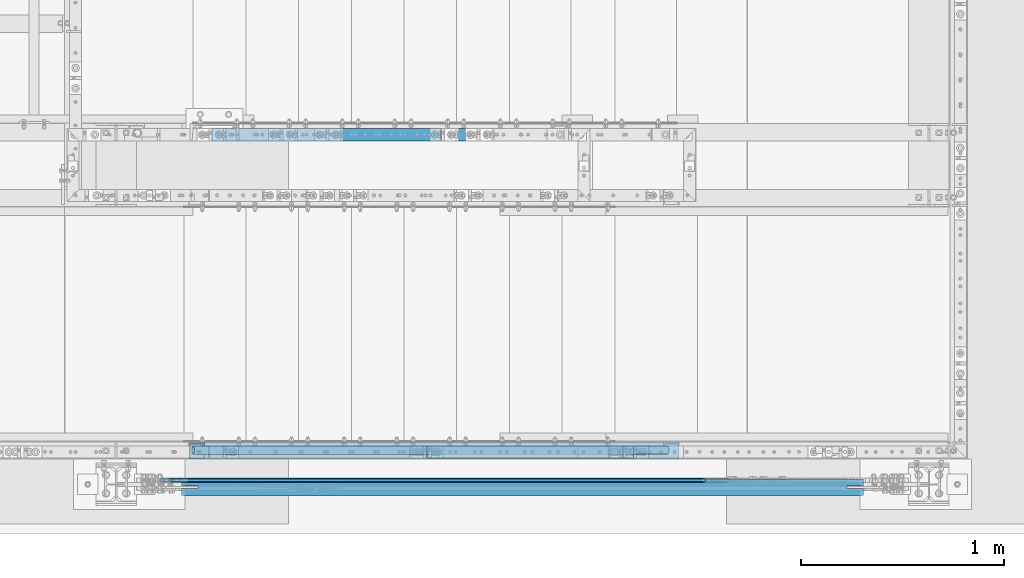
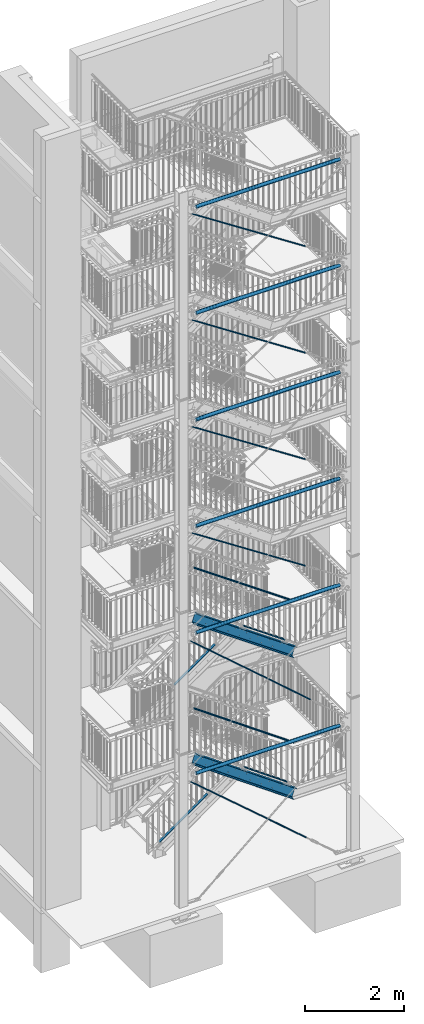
# One storey, part 122 of 831: 14 members, 6 beams, 56 openings.
"""IFC2X3 building model written with IfcOpenShell, lengths in millimetres."""

from ifc_helpers import new_model, entity, si_unit, converted_unit, frame, frame_2d, origin, origin_with_axes, origin_2d, origin_2d_with_axis, place, context, project, spatial, polyline, rectangle, circle, hollow_circle, u_section, outline, extrude, clip, halfspace, material, element, save


model = new_model("IFC2X3")

# Units and contexts
model_context = context("Model", 3, precision=1e-09, world=origin_with_axes())
ifc_project = project(units=[si_unit("LENGTHUNIT", "METRE", prefix="MILLI"), si_unit("AREAUNIT", "SQUARE_METRE"), si_unit("VOLUMEUNIT", "CUBIC_METRE"), converted_unit("PLANEANGLEUNIT", "DEGREE", entity("IfcPlaneAngleMeasure", 0.01745329), si_unit("PLANEANGLEUNIT", "RADIAN"), dimensions=[0, 0, 0, 0, 0, 0, 0])], contexts=[model_context])

# Site, building, storey
site_placement = place(None, origin_with_axes())
site = spatial("IfcSite", under=ifc_project, at=site_placement, Name="Site", CompositionType="ELEMENT")
building_placement = place(site_placement, origin_with_axes())
building = spatial("IfcBuilding", under=site, at=building_placement, Name="Struktur 1", CompositionType="ELEMENT")
storey_placement = place(building_placement, origin_with_axes())
storey = spatial("IfcBuildingStorey", under=building, at=storey_placement, Name="Default Storey", CompositionType="ELEMENT", Elevation=0.0)

# Members
ifc_material = material(Name="S235JR")
member_1_placement = place(None, frame((5332.114193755, 6091.736971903, 702.815552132), z_axis=(-0.814635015, 0.0, -0.579973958), x_axis=(0.579973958, 0.0, -0.814635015)))
element("IfcMember", 1, at=member_1_placement, inside=storey, material=ifc_material, Name="Railing_Kneerail_Stair#1", ObjectType="Railing_Kneerail_Stair#1", context=model_context, shape_type="SweptSolid", body=[
    extrude(rectangle(XDim=10.0, YDim=60.0, at=origin_2d()), origin(), (0.0, 0.0, -1.0), 1383.073435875),
])
member_2_placement = place(None, frame((5683.755877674, 6091.736971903, 4463.532581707), z_axis=(-0.818063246, 0.0, -0.575128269), x_axis=(0.575128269, 0.0, -0.818063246)))
element("IfcMember", 2, at=member_2_placement, inside=storey, material=ifc_material, Name="Railing_Kneerail_Stair#3", ObjectType="Railing_Kneerail_Stair#3", context=model_context, shape_type="SweptSolid", body=[
    extrude(rectangle(XDim=10.0, YDim=60.0, at=origin_2d()), origin(), (0.0, 0.0, -1.0), 1162.398574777),
])

# Beam, openings
beam_1_placement = place(None, frame((5179.963402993, 4351.736971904, 14878.999996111), z_axis=(-1.0, 0.0, 0.0), x_axis=(0.0, 0.0, -1.0)))
beam_1 = element("IfcBeam", 3, at=beam_1_placement, inside=storey, material=ifc_material, Name="Girder", ObjectType="Girder", context=model_context, shape_type="SweptSolid", body=[
    extrude(hollow_circle(Radius=41.25, WallThickness=3.2, at=origin_2d()), origin(), (0.0, 0.0, -1.0), 3363.5),
])
opening_1_placement = place(beam_1_placement, frame((141.35, 0.0, -3363.5), z_axis=(-1.0, 0.0, 0.0), x_axis=(0.0, 0.0, -1.0)))
element("IfcOpeningElement", 4, at=opening_1_placement, cuts=beam_1, ObjectType="Opening", context=model_context, shape_type="SweptSolid", body=[
    extrude(outline(polyline([(-81.001, -5.501), (26.790041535, -5.501), (26.790041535, 5.501), (-81.001, 5.501), (-81.001, -5.501)])), origin(), (0.0, 0.0, 1.0), 282.7),
])
opening_2_placement = place(beam_1_placement, frame((141.35, 5.501, -81.002000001), z_axis=(1.0, 0.0, 0.0), x_axis=(0.0, 0.0, 1.0)))
element("IfcOpeningElement", 5, at=opening_2_placement, cuts=beam_1, ObjectType="Opening", context=model_context, shape_type="SweptSolid", body=[
    extrude(outline(polyline([(0.0, 0.0), (114.972485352, 0.0), (114.972485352, 11.002), (0.0, 11.002), (0.0, 0.0)])), origin(), (0.0, 0.0, -1.0), 282.7),
])

beam_2_placement = place(None, frame((5179.963402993, 4351.736971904, 17498.999996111), z_axis=(-1.0, 0.0, 0.0), x_axis=(0.0, 0.0, -1.0)))
beam_2 = element("IfcBeam", 6, at=beam_2_placement, inside=storey, material=ifc_material, Name="Girder", ObjectType="Girder", context=model_context, shape_type="SweptSolid", body=[
    extrude(hollow_circle(Radius=41.25, WallThickness=3.2, at=origin_2d()), origin(), (0.0, 0.0, -1.0), 3363.5),
])
opening_3_placement = place(beam_2_placement, frame((141.35, 0.0, -3363.5), z_axis=(-1.0, 0.0, 0.0), x_axis=(0.0, 0.0, -1.0)))
element("IfcOpeningElement", 7, at=opening_3_placement, cuts=beam_2, ObjectType="Opening", context=model_context, shape_type="SweptSolid", body=[
    extrude(outline(polyline([(-81.001, -5.501), (26.790041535, -5.501), (26.790041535, 5.501), (-81.001, 5.501), (-81.001, -5.501)])), origin(), (0.0, 0.0, 1.0), 282.7),
])
opening_4_placement = place(beam_2_placement, frame((141.35, 5.501, -81.002000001), z_axis=(1.0, 0.0, 0.0), x_axis=(0.0, 0.0, 1.0)))
element("IfcOpeningElement", 8, at=opening_4_placement, cuts=beam_2, ObjectType="Opening", context=model_context, shape_type="SweptSolid", body=[
    extrude(outline(polyline([(0.0, 0.0), (114.972485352, 0.0), (114.972485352, 11.002), (0.0, 11.002), (0.0, 0.0)])), origin(), (0.0, 0.0, -1.0), 282.7),
])

# Members
member_3_placement = place(None, frame((7602.354363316, 4535.536971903, 3302.79772078), z_axis=(0.814635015, 0.0, -0.579973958), x_axis=(-0.579973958, 0.0, -0.814635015)))
element("IfcMember", 9, at=member_3_placement, inside=storey, material=ifc_material, Name="Gel?nder", ObjectType="Gel?nder", context=model_context, shape_type="Clipping", body=[
    clip(clip(extrude(hollow_circle(Radius=21.2, WallThickness=3.2, at=origin_2d()), origin(), (0.0, 0.0, -1.0), 2935.40281845), halfspace(frame((6043.370805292, -4535.536971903, -972.409756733), z_axis=(-0.304437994, 0.0, 0.952532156), x_axis=(0.0, 1.0, 0.0)), True)), halfspace(frame((5210.397729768, -4535.536971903, 1633.814350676), z_axis=(0.304437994, 0.0, -0.952532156), x_axis=(0.0, -1.0, 0.0)), True)),
])
member_4_placement = place(None, frame((7406.697121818, 4526.736971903, 2421.8849209), z_axis=(0.814635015, 0.0, -0.579973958), x_axis=(-0.579973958, 0.0, -0.814635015)))
element("IfcMember", 10, at=member_4_placement, inside=storey, material=ifc_material, Name="Railing_Kneerail_Stair#13", ObjectType="Railing_Kneerail_Stair#13", context=model_context, shape_type="SweptSolid", body=[
    extrude(rectangle(XDim=10.0, YDim=60.0, at=origin_2d()), origin(), (0.0, 0.0, -1.0), 1218.06374537),
])
member_5_placement = place(None, frame((7602.437980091, 4535.536971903, 6796.809421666), z_axis=(0.818063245, 0.0, -0.57512827), x_axis=(-0.57512827, 0.0, -0.818063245)))
element("IfcMember", 11, at=member_5_placement, inside=storey, material=ifc_material, Name="Gel?nder", ObjectType="Gel?nder", context=model_context, shape_type="Clipping", body=[
    clip(clip(extrude(hollow_circle(Radius=21.2, WallThickness=3.2, at=origin_2d()), origin(), (0.0, 0.0, -1.0), 2923.30595161), halfspace(frame((9196.298185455, -4535.536971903, 17.308609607), z_axis=(-0.301609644, 0.0, 0.953431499), x_axis=(0.0, 1.0, 0.0)), True)), halfspace(frame((8373.746157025, -4535.536971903, 2617.513971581), z_axis=(0.301609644, 0.0, -0.953431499), x_axis=(0.0, -1.0, 0.0)), True)),
])
member_6_placement = place(None, frame((7354.416475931, 4526.736971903, 5950.633535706), z_axis=(0.818063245, 0.0, -0.57512827), x_axis=(-0.57512827, 0.0, -0.818063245)))
element("IfcMember", 12, at=member_6_placement, inside=storey, material=ifc_material, Name="Railing_Kneerail_Stair#15", ObjectType="Railing_Kneerail_Stair#15", context=model_context, shape_type="SweptSolid", body=[
    extrude(rectangle(XDim=10.0, YDim=60.0, at=origin_2d()), origin(), (0.0, 0.0, -1.0), 1178.697204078),
])

# Member, openings
member_7_placement = place(None, frame((7774.802623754, 4554.436971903, 1932.719101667), z_axis=(-0.814635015, 0.0, 0.579973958), x_axis=(0.0, -1.0, 0.0)))
member_7 = element("IfcMember", 13, at=member_7_placement, inside=storey, material=ifc_material, Name="Stringer#1", ObjectType="Stringer#1", context=model_context, shape_type="Clipping", body=[
    clip(clip(extrude(u_section(Depth=240.0, FlangeWidth=85.0, WebThickness=9.5, FlangeThickness=13.0, FilletRadius=13.0, EdgeRadius=6.5, FlangeSlope=4.574, at=frame_2d((20.2, 0.0))), origin(), (0.0, 0.0, 1.0), 3391.707504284), halfspace(frame((4554.436971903, -4072.348471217, -1080.284148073), z_axis=(0.0, -0.304437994, 0.952532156), x_axis=(1.0, 0.0, 0.0)), True)), halfspace(frame((4554.436971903, -4905.321546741, 1525.939959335), z_axis=(0.0, 0.304437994, -0.952532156), x_axis=(-1.0, 0.0, 0.0)), True)),
])
opening_5_placement = place(member_7_placement, frame((-22.8, 54.89598563, 2240.178028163), z_axis=(1.0, 0.0, 0.0), x_axis=(0.0, -0.579973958, 0.814635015)))
element("IfcOpeningElement", 14, at=opening_5_placement, cuts=member_7, ObjectType="Opening", context=model_context, shape_type="SweptSolid", body=[
    extrude(circle(Radius=7.001, at=origin_2d_with_axis()), origin(), (0.0, 0.0, 1.0), 10.5),
])
opening_6_placement = place(member_7_placement, frame((-22.8, 54.89598563, 963.532683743), z_axis=(1.0, 0.0, 0.0), x_axis=(0.0, -0.579973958, 0.814635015)))
element("IfcOpeningElement", 15, at=opening_6_placement, cuts=member_7, ObjectType="Opening", context=model_context, shape_type="SweptSolid", body=[
    extrude(circle(Radius=7.001, at=origin_2d_with_axis()), origin(), (0.0, 0.0, 1.0), 10.5),
])
opening_7_placement = place(member_7_placement, frame((-22.8, -49.49932673, 2067.650994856), z_axis=(1.0, 0.0, 0.0), x_axis=(0.0, -0.579973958, 0.814635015)))
element("IfcOpeningElement", 16, at=opening_7_placement, cuts=member_7, ObjectType="Opening", context=model_context, shape_type="SweptSolid", body=[
    extrude(circle(Radius=7.001, at=origin_2d_with_axis()), origin(), (0.0, 0.0, 1.0), 10.5),
])
opening_8_placement = place(member_7_placement, frame((-22.8, 54.89598563, 2559.339364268), z_axis=(1.0, 0.0, 0.0), x_axis=(0.0, -0.579973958, 0.814635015)))
element("IfcOpeningElement", 17, at=opening_8_placement, cuts=member_7, ObjectType="Opening", context=model_context, shape_type="SweptSolid", body=[
    extrude(circle(Radius=7.001, at=origin_2d_with_axis()), origin(), (0.0, 0.0, 1.0), 10.5),
])
opening_9_placement = place(member_7_placement, frame((-22.8, -49.49932673, 3025.135003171), z_axis=(1.0, 0.0, 0.0), x_axis=(0.0, -0.579973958, 0.814635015)))
element("IfcOpeningElement", 18, at=opening_9_placement, cuts=member_7, ObjectType="Opening", context=model_context, shape_type="SweptSolid", body=[
    extrude(circle(Radius=7.001, at=origin_2d_with_axis()), origin(), (0.0, 0.0, 1.0), 10.5),
])
opening_10_placement = place(member_7_placement, frame((-22.8, -49.49932673, 1110.166986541), z_axis=(1.0, 0.0, 0.0), x_axis=(0.0, -0.579973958, 0.814635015)))
element("IfcOpeningElement", 19, at=opening_10_placement, cuts=member_7, ObjectType="Opening", context=model_context, shape_type="SweptSolid", body=[
    extrude(circle(Radius=7.001, at=origin_2d_with_axis()), origin(), (0.0, 0.0, 1.0), 10.5),
])
opening_11_placement = place(member_7_placement, frame((-22.8, -49.49932673, 791.005650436), z_axis=(1.0, 0.0, 0.0), x_axis=(0.0, -0.579973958, 0.814635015)))
element("IfcOpeningElement", 20, at=opening_11_placement, cuts=member_7, ObjectType="Opening", context=model_context, shape_type="SweptSolid", body=[
    extrude(circle(Radius=7.001, at=origin_2d_with_axis()), origin(), (0.0, 0.0, 1.0), 10.5),
])
opening_12_placement = place(member_7_placement, frame((-22.8, -49.49932673, 1429.328322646), z_axis=(1.0, 0.0, 0.0), x_axis=(0.0, -0.579973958, 0.814635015)))
element("IfcOpeningElement", 21, at=opening_12_placement, cuts=member_7, ObjectType="Opening", context=model_context, shape_type="SweptSolid", body=[
    extrude(circle(Radius=7.001, at=origin_2d_with_axis()), origin(), (0.0, 0.0, 1.0), 10.5),
])
opening_13_placement = place(member_7_placement, frame((-22.8, 54.89598563, 1601.855355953), z_axis=(1.0, 0.0, 0.0), x_axis=(0.0, -0.579973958, 0.814635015)))
element("IfcOpeningElement", 22, at=opening_13_placement, cuts=member_7, ObjectType="Opening", context=model_context, shape_type="SweptSolid", body=[
    extrude(circle(Radius=7.001, at=origin_2d_with_axis()), origin(), (0.0, 0.0, 1.0), 10.5),
])
opening_14_placement = place(member_7_placement, frame((-22.8, -49.49932673, 2705.973667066), z_axis=(1.0, 0.0, 0.0), x_axis=(0.0, -0.579973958, 0.814635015)))
element("IfcOpeningElement", 23, at=opening_14_placement, cuts=member_7, ObjectType="Opening", context=model_context, shape_type="SweptSolid", body=[
    extrude(circle(Radius=7.001, at=origin_2d_with_axis()), origin(), (0.0, 0.0, 1.0), 10.5),
])
opening_15_placement = place(member_7_placement, frame((-22.8, -49.49932673, 2386.812330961), z_axis=(1.0, 0.0, 0.0), x_axis=(0.0, -0.579973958, 0.814635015)))
element("IfcOpeningElement", 24, at=opening_15_placement, cuts=member_7, ObjectType="Opening", context=model_context, shape_type="SweptSolid", body=[
    extrude(circle(Radius=7.001, at=origin_2d_with_axis()), origin(), (0.0, 0.0, 1.0), 10.5),
])
opening_16_placement = place(member_7_placement, frame((-22.8, 54.89598563, 644.371347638), z_axis=(1.0, 0.0, 0.0), x_axis=(0.0, -0.579973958, 0.814635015)))
element("IfcOpeningElement", 25, at=opening_16_placement, cuts=member_7, ObjectType="Opening", context=model_context, shape_type="SweptSolid", body=[
    extrude(circle(Radius=7.001, at=origin_2d_with_axis()), origin(), (0.0, 0.0, 1.0), 10.5),
])
opening_17_placement = place(member_7_placement, frame((-22.8, 54.89598563, 1921.016692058), z_axis=(1.0, 0.0, 0.0), x_axis=(0.0, -0.579973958, 0.814635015)))
element("IfcOpeningElement", 26, at=opening_17_placement, cuts=member_7, ObjectType="Opening", context=model_context, shape_type="SweptSolid", body=[
    extrude(circle(Radius=7.001, at=origin_2d_with_axis()), origin(), (0.0, 0.0, 1.0), 10.5),
])
opening_18_placement = place(member_7_placement, frame((-22.8, 54.89598563, 2878.500700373), z_axis=(1.0, 0.0, 0.0), x_axis=(0.0, -0.579973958, 0.814635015)))
element("IfcOpeningElement", 27, at=opening_18_placement, cuts=member_7, ObjectType="Opening", context=model_context, shape_type="SweptSolid", body=[
    extrude(circle(Radius=7.001, at=origin_2d_with_axis()), origin(), (0.0, 0.0, 1.0), 10.5),
])
opening_19_placement = place(member_7_placement, frame((-22.8, 54.89598563, 1282.694019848), z_axis=(1.0, 0.0, 0.0), x_axis=(0.0, -0.579973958, 0.814635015)))
element("IfcOpeningElement", 28, at=opening_19_placement, cuts=member_7, ObjectType="Opening", context=model_context, shape_type="SweptSolid", body=[
    extrude(circle(Radius=7.001, at=origin_2d_with_axis()), origin(), (0.0, 0.0, 1.0), 10.5),
])
opening_20_placement = place(member_7_placement, frame((-22.8, -49.49932673, 1748.489658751), z_axis=(1.0, 0.0, 0.0), x_axis=(0.0, -0.579973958, 0.814635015)))
element("IfcOpeningElement", 29, at=opening_20_placement, cuts=member_7, ObjectType="Opening", context=model_context, shape_type="SweptSolid", body=[
    extrude(circle(Radius=7.001, at=origin_2d_with_axis()), origin(), (0.0, 0.0, 1.0), 10.5),
])
opening_21_placement = place(member_7_placement, frame((27.7, 120.5, 581.652992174), z_axis=(0.0, 1.0, 0.0), x_axis=(-1.0, 0.0, 0.0)))
element("IfcOpeningElement", 30, at=opening_21_placement, cuts=member_7, ObjectType="Opening", context=model_context, shape_type="SweptSolid", body=[
    extrude(circle(Radius=7.001, at=frame_2d((0.0, 7.001), x_axis=(1.0, 0.0))), origin(), (0.0, 0.0, -1.0), 14.0),
])
opening_22_placement = place(member_7_placement, frame((27.7, 120.5, 481.652992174), z_axis=(0.0, 1.0, 0.0), x_axis=(-1.0, 0.0, 0.0)))
element("IfcOpeningElement", 31, at=opening_22_placement, cuts=member_7, ObjectType="Opening", context=model_context, shape_type="SweptSolid", body=[
    extrude(circle(Radius=7.001, at=frame_2d((0.0, 7.001), x_axis=(1.0, 0.0))), origin(), (0.0, 0.0, -1.0), 14.0),
])
opening_23_placement = place(member_7_placement, frame((27.7, 120.5, 1825.24932475), z_axis=(0.0, 1.0, 0.0), x_axis=(-1.0, 0.0, 0.0)))
element("IfcOpeningElement", 32, at=opening_23_placement, cuts=member_7, ObjectType="Opening", context=model_context, shape_type="SweptSolid", body=[
    extrude(circle(Radius=7.001, at=frame_2d((0.0, 7.001), x_axis=(1.0, 0.0))), origin(), (0.0, 0.0, -1.0), 14.0),
])
opening_24_placement = place(member_7_placement, frame((27.7, 120.5, 1725.24932475), z_axis=(0.0, 1.0, 0.0), x_axis=(-1.0, 0.0, 0.0)))
element("IfcOpeningElement", 33, at=opening_24_placement, cuts=member_7, ObjectType="Opening", context=model_context, shape_type="SweptSolid", body=[
    extrude(circle(Radius=7.001, at=frame_2d((0.0, 7.001), x_axis=(1.0, 0.0))), origin(), (0.0, 0.0, -1.0), 14.0),
])
opening_25_placement = place(member_7_placement, frame((27.7, 120.5, 3068.845657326), z_axis=(0.0, 1.0, 0.0), x_axis=(-1.0, 0.0, 0.0)))
element("IfcOpeningElement", 34, at=opening_25_placement, cuts=member_7, ObjectType="Opening", context=model_context, shape_type="SweptSolid", body=[
    extrude(circle(Radius=7.001, at=frame_2d((0.0, 7.001), x_axis=(1.0, 0.0))), origin(), (0.0, 0.0, -1.0), 14.0),
])
opening_26_placement = place(member_7_placement, frame((27.7, 120.5, 2968.845657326), z_axis=(0.0, 1.0, 0.0), x_axis=(-1.0, 0.0, 0.0)))
element("IfcOpeningElement", 35, at=opening_26_placement, cuts=member_7, ObjectType="Opening", context=model_context, shape_type="SweptSolid", body=[
    extrude(circle(Radius=7.001, at=frame_2d((0.0, 7.001), x_axis=(1.0, 0.0))), origin(), (0.0, 0.0, -1.0), 14.0),
])

member_8_placement = place(None, frame((7776.785634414, 4554.436971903, 5427.548742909), z_axis=(-0.818063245, 0.0, 0.57512827), x_axis=(0.0, -1.0, 0.0)))
member_8 = element("IfcMember", 36, at=member_8_placement, inside=storey, material=ifc_material, Name="Stringer#1", ObjectType="Stringer#1", context=model_context, shape_type="Clipping", body=[
    clip(clip(extrude(u_section(Depth=240.0, FlangeWidth=85.0, WebThickness=9.5, FlangeThickness=13.0, FilletRadius=13.0, EdgeRadius=6.5, FlangeSlope=4.574, at=frame_2d((20.2, 0.0))), origin(), (0.0, 0.0, 1.0), 3379.180219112), halfspace(frame((4554.436971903, -7233.811372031, -2066.929465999), z_axis=(0.0, -0.301609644, 0.953431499), x_axis=(1.0, 0.0, 0.0)), True)), halfspace(frame((4554.436971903, -8056.363400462, 533.275895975), z_axis=(0.0, 0.301609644, -0.953431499), x_axis=(-1.0, 0.0, 0.0)), True)),
])
opening_27_placement = place(member_8_placement, frame((-22.8, 54.877032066, 1597.228051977), z_axis=(1.0, 0.0, 0.0), x_axis=(0.0, -0.57512827, 0.818063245)))
element("IfcOpeningElement", 37, at=opening_27_placement, cuts=member_8, ObjectType="Opening", context=model_context, shape_type="SweptSolid", body=[
    extrude(circle(Radius=7.001, at=origin_2d_with_axis()), origin(), (0.0, 0.0, 1.0), 10.5),
])
opening_28_placement = place(member_8_placement, frame((-22.8, -48.646056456, 1426.655598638), z_axis=(1.0, 0.0, 0.0), x_axis=(0.0, -0.57512827, 0.818063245)))
element("IfcOpeningElement", 38, at=opening_28_placement, cuts=member_8, ObjectType="Opening", context=model_context, shape_type="SweptSolid", body=[
    extrude(circle(Radius=7.001, at=origin_2d_with_axis()), origin(), (0.0, 0.0, 1.0), 10.5),
])
opening_29_placement = place(member_8_placement, frame((-22.8, -48.646056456, 3015.774786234), z_axis=(1.0, 0.0, 0.0), x_axis=(0.0, -0.57512827, 0.818063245)))
element("IfcOpeningElement", 39, at=opening_29_placement, cuts=member_8, ObjectType="Opening", context=model_context, shape_type="SweptSolid", body=[
    extrude(circle(Radius=7.001, at=origin_2d_with_axis()), origin(), (0.0, 0.0, 1.0), 10.5),
])
opening_30_placement = place(member_8_placement, frame((-22.8, 54.877032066, 2868.523402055), z_axis=(1.0, 0.0, 0.0), x_axis=(0.0, -0.57512827, 0.818063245)))
element("IfcOpeningElement", 40, at=opening_30_placement, cuts=member_8, ObjectType="Opening", context=model_context, shape_type="SweptSolid", body=[
    extrude(circle(Radius=7.001, at=origin_2d_with_axis()), origin(), (0.0, 0.0, 1.0), 10.5),
])
opening_31_placement = place(member_8_placement, frame((-22.8, -48.646056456, 2062.303273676), z_axis=(1.0, 0.0, 0.0), x_axis=(0.0, -0.57512827, 0.818063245)))
element("IfcOpeningElement", 41, at=opening_31_placement, cuts=member_8, ObjectType="Opening", context=model_context, shape_type="SweptSolid", body=[
    extrude(circle(Radius=7.001, at=origin_2d_with_axis()), origin(), (0.0, 0.0, 1.0), 10.5),
])
opening_32_placement = place(member_8_placement, frame((-22.8, 54.877032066, 961.580376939), z_axis=(1.0, 0.0, 0.0), x_axis=(0.0, -0.57512827, 0.818063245)))
element("IfcOpeningElement", 42, at=opening_32_placement, cuts=member_8, ObjectType="Opening", context=model_context, shape_type="SweptSolid", body=[
    extrude(circle(Radius=7.001, at=origin_2d_with_axis()), origin(), (0.0, 0.0, 1.0), 10.5),
])
opening_33_placement = place(member_8_placement, frame((-22.8, -48.646056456, 1744.479436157), z_axis=(1.0, 0.0, 0.0), x_axis=(0.0, -0.57512827, 0.818063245)))
element("IfcOpeningElement", 43, at=opening_33_placement, cuts=member_8, ObjectType="Opening", context=model_context, shape_type="SweptSolid", body=[
    extrude(circle(Radius=7.001, at=origin_2d_with_axis()), origin(), (0.0, 0.0, 1.0), 10.5),
])
opening_34_placement = place(member_8_placement, frame((-22.8, 54.877032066, 2550.699564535), z_axis=(1.0, 0.0, 0.0), x_axis=(0.0, -0.57512827, 0.818063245)))
element("IfcOpeningElement", 44, at=opening_34_placement, cuts=member_8, ObjectType="Opening", context=model_context, shape_type="SweptSolid", body=[
    extrude(circle(Radius=7.001, at=origin_2d_with_axis()), origin(), (0.0, 0.0, 1.0), 10.5),
])
opening_35_placement = place(member_8_placement, frame((-22.8, -48.646056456, 791.007923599), z_axis=(1.0, 0.0, 0.0), x_axis=(0.0, -0.57512827, 0.818063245)))
element("IfcOpeningElement", 45, at=opening_35_placement, cuts=member_8, ObjectType="Opening", context=model_context, shape_type="SweptSolid", body=[
    extrude(circle(Radius=7.001, at=origin_2d_with_axis()), origin(), (0.0, 0.0, 1.0), 10.5),
])
opening_36_placement = place(member_8_placement, frame((-22.8, 54.877032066, 1915.051889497), z_axis=(1.0, 0.0, 0.0), x_axis=(0.0, -0.57512827, 0.818063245)))
element("IfcOpeningElement", 46, at=opening_36_placement, cuts=member_8, ObjectType="Opening", context=model_context, shape_type="SweptSolid", body=[
    extrude(circle(Radius=7.001, at=origin_2d_with_axis()), origin(), (0.0, 0.0, 1.0), 10.5),
])
opening_37_placement = place(member_8_placement, frame((-22.8, -48.646056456, 1108.831761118), z_axis=(1.0, 0.0, 0.0), x_axis=(0.0, -0.57512827, 0.818063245)))
element("IfcOpeningElement", 47, at=opening_37_placement, cuts=member_8, ObjectType="Opening", context=model_context, shape_type="SweptSolid", body=[
    extrude(circle(Radius=7.001, at=origin_2d_with_axis()), origin(), (0.0, 0.0, 1.0), 10.5),
])
opening_38_placement = place(member_8_placement, frame((-22.8, 54.877032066, 643.756539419), z_axis=(1.0, 0.0, 0.0), x_axis=(0.0, -0.57512827, 0.818063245)))
element("IfcOpeningElement", 48, at=opening_38_placement, cuts=member_8, ObjectType="Opening", context=model_context, shape_type="SweptSolid", body=[
    extrude(circle(Radius=7.001, at=origin_2d_with_axis()), origin(), (0.0, 0.0, 1.0), 10.5),
])
opening_39_placement = place(member_8_placement, frame((-22.8, 54.877032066, 1279.404214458), z_axis=(1.0, 0.0, 0.0), x_axis=(0.0, -0.57512827, 0.818063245)))
element("IfcOpeningElement", 49, at=opening_39_placement, cuts=member_8, ObjectType="Opening", context=model_context, shape_type="SweptSolid", body=[
    extrude(circle(Radius=7.001, at=origin_2d_with_axis()), origin(), (0.0, 0.0, 1.0), 10.5),
])
opening_40_placement = place(member_8_placement, frame((-22.8, -48.646056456, 2697.950948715), z_axis=(1.0, 0.0, 0.0), x_axis=(0.0, -0.57512827, 0.818063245)))
element("IfcOpeningElement", 50, at=opening_40_placement, cuts=member_8, ObjectType="Opening", context=model_context, shape_type="SweptSolid", body=[
    extrude(circle(Radius=7.001, at=origin_2d_with_axis()), origin(), (0.0, 0.0, 1.0), 10.5),
])
opening_41_placement = place(member_8_placement, frame((-22.8, 54.877032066, 2232.875727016), z_axis=(1.0, 0.0, 0.0), x_axis=(0.0, -0.57512827, 0.818063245)))
element("IfcOpeningElement", 51, at=opening_41_placement, cuts=member_8, ObjectType="Opening", context=model_context, shape_type="SweptSolid", body=[
    extrude(circle(Radius=7.001, at=origin_2d_with_axis()), origin(), (0.0, 0.0, 1.0), 10.5),
])
opening_42_placement = place(member_8_placement, frame((-22.8, -48.646056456, 2380.127111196), z_axis=(1.0, 0.0, 0.0), x_axis=(0.0, -0.57512827, 0.818063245)))
element("IfcOpeningElement", 52, at=opening_42_placement, cuts=member_8, ObjectType="Opening", context=model_context, shape_type="SweptSolid", body=[
    extrude(circle(Radius=7.001, at=origin_2d_with_axis()), origin(), (0.0, 0.0, 1.0), 10.5),
])
opening_43_placement = place(member_8_placement, frame((27.7, 120.5, 645.130394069), z_axis=(0.0, 1.0, 0.0), x_axis=(-1.0, 0.0, 0.0)))
element("IfcOpeningElement", 53, at=opening_43_placement, cuts=member_8, ObjectType="Opening", context=model_context, shape_type="SweptSolid", body=[
    extrude(circle(Radius=7.001, at=frame_2d((0.0, 7.001), x_axis=(1.0, 0.0))), origin(), (0.0, 0.0, -1.0), 14.0),
])
opening_44_placement = place(member_8_placement, frame((27.7, 120.5, 545.130394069), z_axis=(0.0, 1.0, 0.0), x_axis=(-1.0, 0.0, 0.0)))
element("IfcOpeningElement", 54, at=opening_44_placement, cuts=member_8, ObjectType="Opening", context=model_context, shape_type="SweptSolid", body=[
    extrude(circle(Radius=7.001, at=frame_2d((0.0, 7.001), x_axis=(1.0, 0.0))), origin(), (0.0, 0.0, -1.0), 14.0),
])
opening_45_placement = place(member_8_placement, frame((27.7, 120.5, 1849.193953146), z_axis=(0.0, 1.0, 0.0), x_axis=(-1.0, 0.0, 0.0)))
element("IfcOpeningElement", 55, at=opening_45_placement, cuts=member_8, ObjectType="Opening", context=model_context, shape_type="SweptSolid", body=[
    extrude(circle(Radius=7.001, at=frame_2d((0.0, 7.001), x_axis=(1.0, 0.0))), origin(), (0.0, 0.0, -1.0), 14.0),
])
opening_46_placement = place(member_8_placement, frame((27.7, 120.5, 1749.193953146), z_axis=(0.0, 1.0, 0.0), x_axis=(-1.0, 0.0, 0.0)))
element("IfcOpeningElement", 56, at=opening_46_placement, cuts=member_8, ObjectType="Opening", context=model_context, shape_type="SweptSolid", body=[
    extrude(circle(Radius=7.001, at=frame_2d((0.0, 7.001), x_axis=(1.0, 0.0))), origin(), (0.0, 0.0, -1.0), 14.0),
])
opening_47_placement = place(member_8_placement, frame((27.7, 120.5, 3053.257512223), z_axis=(0.0, 1.0, 0.0), x_axis=(-1.0, 0.0, 0.0)))
element("IfcOpeningElement", 57, at=opening_47_placement, cuts=member_8, ObjectType="Opening", context=model_context, shape_type="SweptSolid", body=[
    extrude(circle(Radius=7.001, at=frame_2d((0.0, 7.001), x_axis=(1.0, 0.0))), origin(), (0.0, 0.0, -1.0), 14.0),
])
opening_48_placement = place(member_8_placement, frame((27.7, 120.5, 2953.257512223), z_axis=(0.0, 1.0, 0.0), x_axis=(-1.0, 0.0, 0.0)))
element("IfcOpeningElement", 58, at=opening_48_placement, cuts=member_8, ObjectType="Opening", context=model_context, shape_type="SweptSolid", body=[
    extrude(circle(Radius=7.001, at=frame_2d((0.0, 7.001), x_axis=(1.0, 0.0))), origin(), (0.0, 0.0, -1.0), 14.0),
])

# Members
member_9_placement = place(None, frame((5085.030637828, 4386.736971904, 3315.453588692), z_axis=(0.757867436, 0.0, -0.652408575), x_axis=(0.652408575, 0.0, 0.757867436)))
element("IfcMember", 59, at=member_9_placement, inside=storey, material=ifc_material, Name="-", ObjectType="-", context=model_context, shape_type="SweptSolid", body=[
    extrude(circle(Radius=11.0, at=origin_2d()), origin(), (0.0, 0.0, 1.0), 3558.71454228),
])
member_10_placement = place(None, frame((5083.107423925, 4386.736971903, 6788.923578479), z_axis=(0.755906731, 0.0, -0.654679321), x_axis=(0.654679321, 0.0, 0.755906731)))
element("IfcMember", 60, at=member_10_placement, inside=storey, material=ifc_material, Name="-", ObjectType="-", context=model_context, shape_type="SweptSolid", body=[
    extrude(circle(Radius=11.0, at=origin_2d()), origin(), (0.0, 0.0, 1.0), 3695.890496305),
])
member_11_placement = place(None, frame((5121.759351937, 4386.736971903, 9443.034675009), z_axis=(0.83600607, 0.0, -0.548720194), x_axis=(0.548720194, 0.0, 0.83600607)))
element("IfcMember", 61, at=member_11_placement, inside=storey, material=ifc_material, Name="-", ObjectType="-", context=model_context, shape_type="SweptSolid", body=[
    extrude(circle(Radius=11.0, at=origin_2d()), origin(), (0.0, 0.0, 1.0), 3152.49296177),
])
member_12_placement = place(None, frame((5121.91149273, 4386.736971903, 12070.267324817), z_axis=(0.836491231, 0.0, -0.547980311), x_axis=(0.547980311, 0.0, 0.836491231)))
element("IfcMember", 62, at=member_12_placement, inside=storey, material=ifc_material, Name="-", ObjectType="-", context=model_context, shape_type="SweptSolid", body=[
    extrude(circle(Radius=11.0, at=origin_2d()), origin(), (0.0, 0.0, 1.0), 3149.751568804),
])
member_13_placement = place(None, frame((5121.66865522, 4386.736971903, 14704.895983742), z_axis=(0.835719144, 0.0, -0.549157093), x_axis=(0.549157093, 0.0, 0.835719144)))
element("IfcMember", 63, at=member_13_placement, inside=storey, material=ifc_material, Name="-", ObjectType="-", context=model_context, shape_type="SweptSolid", body=[
    extrude(circle(Radius=11.0, at=origin_2d()), origin(), (0.0, 0.0, 1.0), 3154.139325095),
])
member_14_placement = place(None, frame((5122.12270333, 4386.736971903, 17325.590428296), z_axis=(0.837153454, 0.0, -0.546968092), x_axis=(0.546968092, 0.0, 0.837153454)))
element("IfcMember", 64, at=member_14_placement, inside=storey, material=ifc_material, Name="-", ObjectType="-", context=model_context, shape_type="SweptSolid", body=[
    extrude(circle(Radius=11.0, at=origin_2d()), origin(), (0.0, 0.0, 1.0), 3145.919038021),
])

# Beam, openings
beam_3_placement = place(None, frame((5179.963402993, 4351.736971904, 6984.999996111), z_axis=(-1.0, 0.0, 0.0), x_axis=(0.0, 0.0, -1.0)))
beam_3 = element("IfcBeam", 65, at=beam_3_placement, inside=storey, material=ifc_material, Name="Girder", ObjectType="Girder", context=model_context, shape_type="SweptSolid", body=[
    extrude(hollow_circle(Radius=41.25, WallThickness=3.2, at=origin_2d()), origin(), (0.0, 0.0, -1.0), 3363.5),
])
opening_49_placement = place(beam_3_placement, frame((141.35, 0.0, -3363.5), z_axis=(-1.0, 0.0, 0.0), x_axis=(0.0, 0.0, -1.0)))
element("IfcOpeningElement", 66, at=opening_49_placement, cuts=beam_3, ObjectType="Opening", context=model_context, shape_type="SweptSolid", body=[
    extrude(outline(polyline([(-81.001, -5.501), (26.790041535, -5.501), (26.790041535, 5.501), (-81.001, 5.501), (-81.001, -5.501)])), origin(), (0.0, 0.0, 1.0), 282.7),
])
opening_50_placement = place(beam_3_placement, frame((141.35, 5.501, -81.003000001), z_axis=(1.0, 0.0, 0.0), x_axis=(0.0, 0.0, 1.0)))
element("IfcOpeningElement", 67, at=opening_50_placement, cuts=beam_3, ObjectType="Opening", context=model_context, shape_type="SweptSolid", body=[
    extrude(outline(polyline([(0.0, 0.0), (114.973485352, 0.0), (114.973485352, 11.002), (0.0, 11.002), (0.0, 0.0)])), origin(), (0.0, 0.0, -1.0), 282.7),
])

beam_4_placement = place(None, frame((5179.963402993, 4351.736971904, 3511.999996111), z_axis=(-1.0, 0.0, 0.0), x_axis=(0.0, 0.0, -1.0)))
beam_4 = element("IfcBeam", 68, at=beam_4_placement, inside=storey, material=ifc_material, Name="Girder", ObjectType="Girder", context=model_context, shape_type="SweptSolid", body=[
    extrude(hollow_circle(Radius=41.25, WallThickness=3.2, at=origin_2d()), origin(), (0.0, 0.0, -1.0), 3363.5),
])
opening_51_placement = place(beam_4_placement, frame((141.35, 0.0, -3363.5), z_axis=(-1.0, 0.0, 0.0), x_axis=(0.0, 0.0, -1.0)))
element("IfcOpeningElement", 69, at=opening_51_placement, cuts=beam_4, ObjectType="Opening", context=model_context, shape_type="SweptSolid", body=[
    extrude(outline(polyline([(-81.001, -5.501), (26.790041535, -5.501), (26.790041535, 5.501), (-81.001, 5.501), (-81.001, -5.501)])), origin(), (0.0, 0.0, 1.0), 282.7),
])
opening_52_placement = place(beam_4_placement, frame((141.35, 5.501, -81.002000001), z_axis=(1.0, 0.0, 0.0), x_axis=(0.0, 0.0, 1.0)))
element("IfcOpeningElement", 70, at=opening_52_placement, cuts=beam_4, ObjectType="Opening", context=model_context, shape_type="SweptSolid", body=[
    extrude(outline(polyline([(0.0, 0.0), (114.972485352, 0.0), (114.972485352, 11.002), (0.0, 11.002), (0.0, 0.0)])), origin(), (0.0, 0.0, -1.0), 282.7),
])

beam_5_placement = place(None, frame((5179.963402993, 4351.736971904, 9616.999996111), z_axis=(-1.0, 0.0, 0.0), x_axis=(0.0, 0.0, -1.0)))
beam_5 = element("IfcBeam", 71, at=beam_5_placement, inside=storey, material=ifc_material, Name="Girder", ObjectType="Girder", context=model_context, shape_type="SweptSolid", body=[
    extrude(hollow_circle(Radius=41.25, WallThickness=3.2, at=origin_2d()), origin(), (0.0, 0.0, -1.0), 3363.5),
])
opening_53_placement = place(beam_5_placement, frame((141.35, 0.0, -3363.5), z_axis=(-1.0, 0.0, 0.0), x_axis=(0.0, 0.0, -1.0)))
element("IfcOpeningElement", 72, at=opening_53_placement, cuts=beam_5, ObjectType="Opening", context=model_context, shape_type="SweptSolid", body=[
    extrude(outline(polyline([(-81.001, -5.501), (26.790041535, -5.501), (26.790041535, 5.501), (-81.001, 5.501), (-81.001, -5.501)])), origin(), (0.0, 0.0, 1.0), 282.7),
])
opening_54_placement = place(beam_5_placement, frame((141.35, 5.501, -81.002000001), z_axis=(1.0, 0.0, 0.0), x_axis=(0.0, 0.0, 1.0)))
element("IfcOpeningElement", 73, at=opening_54_placement, cuts=beam_5, ObjectType="Opening", context=model_context, shape_type="SweptSolid", body=[
    extrude(outline(polyline([(0.0, 0.0), (114.972485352, 0.0), (114.972485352, 11.002), (0.0, 11.002), (0.0, 0.0)])), origin(), (0.0, 0.0, -1.0), 282.7),
])

beam_6_placement = place(None, frame((5179.963402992, 4351.736971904, 12243.999996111), z_axis=(-1.0, 0.0, 0.0), x_axis=(0.0, 0.0, -1.0)))
beam_6 = element("IfcBeam", 74, at=beam_6_placement, inside=storey, material=ifc_material, Name="Girder", ObjectType="Girder", context=model_context, shape_type="SweptSolid", body=[
    extrude(hollow_circle(Radius=41.25, WallThickness=3.2, at=origin_2d()), origin(), (0.0, 0.0, -1.0), 3363.5),
])
opening_55_placement = place(beam_6_placement, frame((141.35, 0.0, -3363.5), z_axis=(-1.0, 0.0, 0.0), x_axis=(0.0, 0.0, -1.0)))
element("IfcOpeningElement", 75, at=opening_55_placement, cuts=beam_6, ObjectType="Opening", context=model_context, shape_type="SweptSolid", body=[
    extrude(outline(polyline([(-81.001, -5.501), (26.790041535, -5.501), (26.790041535, 5.501), (-81.001, 5.501), (-81.001, -5.501)])), origin(), (0.0, 0.0, 1.0), 282.7),
])
opening_56_placement = place(beam_6_placement, frame((141.35, 5.501, -81.002000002), z_axis=(1.0, 0.0, 0.0), x_axis=(0.0, 0.0, 1.0)))
element("IfcOpeningElement", 76, at=opening_56_placement, cuts=beam_6, ObjectType="Opening", context=model_context, shape_type="SweptSolid", body=[
    extrude(outline(polyline([(0.0, 0.0), (114.972485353, 0.0), (114.972485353, 11.002), (0.0, 11.002), (0.0, 0.0)])), origin(), (0.0, 0.0, -1.0), 282.7),
])

save(model, "model.ifc")
